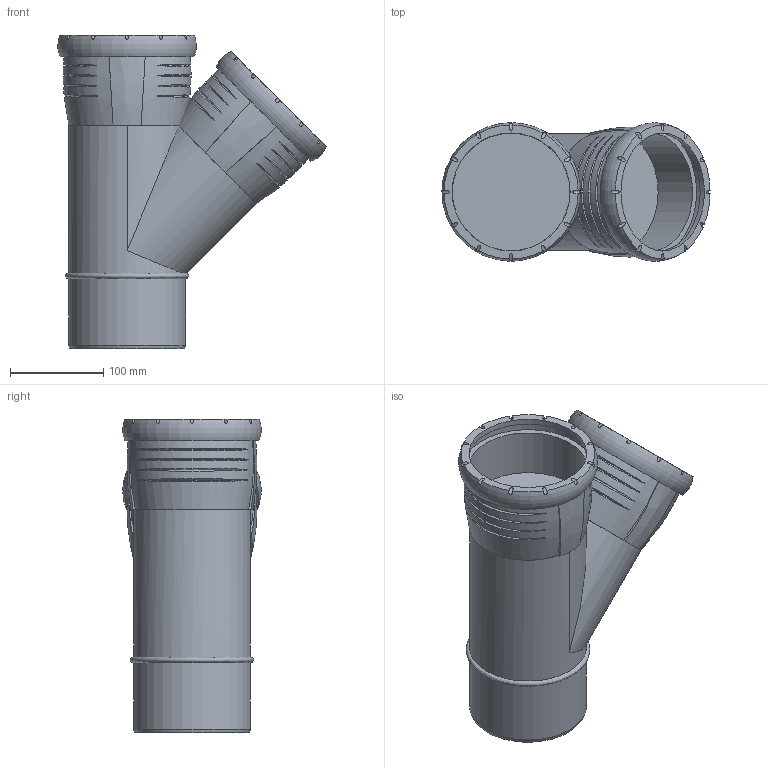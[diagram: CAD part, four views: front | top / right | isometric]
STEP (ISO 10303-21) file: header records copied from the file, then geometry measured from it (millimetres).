
FILE_DESCRIPTION(/* description */ (''),/* implementation_level */ '2;1');
FILE_NAME(/* name */ 'H:\Geberit-Teile\Export\Abzweig PP\stp\393636.stp',/* time_stamp */ '2017-02-13T13:20:30+01:00',/* author */ ('seihe2'),/* organization */ (''),/* preprocessor_version */ 'ST-DEVELOPER v15.2',/* originating_system */ 'Autodesk Inventor 2014',/* authorisation */ '');
FILE_SCHEMA (('AUTOMOTIVE_DESIGN { 1 0 10303 214 3 1 1 }'));
Length unit declared in the file: millimetre
Products named in the file (1): 393636
Bounding box: 287.37 x 148.35 x 335.5 mm (x, y, z)
Volume: 4289608 mm3; surface area: 406681.9 mm2
Topology: 5 solids, 5 shells, 107 faces, 249 edges, 176 vertices
Faces by surface type: bspline 45, cylinder 40, plane 19, torus 2, cone 1
Full cylindrical faces by diameter (mm): 95.978 x2, 115.2 x1, 125.2 x3, 126 x2, 126.4 x2, 138.1 x2
Entity records: 7600 total; most frequent: CARTESIAN_POINT 5402, ORIENTED_EDGE 454, DIRECTION 335, EDGE_CURVE 226, VERTEX_POINT 169, AXIS2_PLACEMENT_3D 167, EDGE_LOOP 149, B_SPLINE_CURVE_WITH_KNOTS 120
